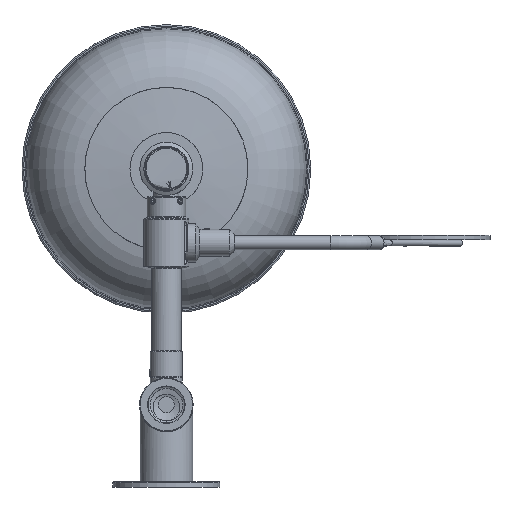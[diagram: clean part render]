
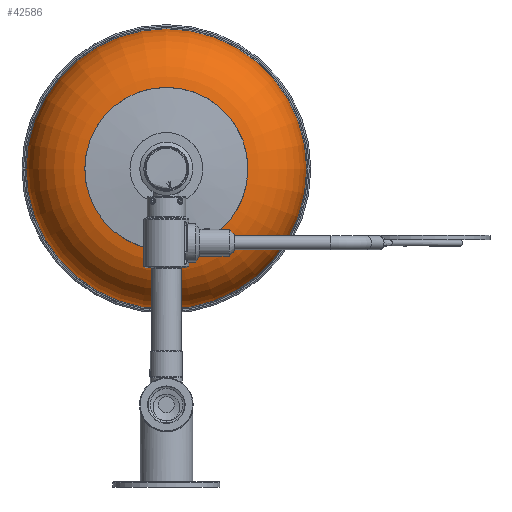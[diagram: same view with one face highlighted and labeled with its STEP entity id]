
A CAD part, top view. The second image highlights one B-rep face of the part: STEP entity #42586.
In plain terms, the highlighted toroidal (fillet/blend) face has major radius 70.102 mm and minor radius 60.8 mm.
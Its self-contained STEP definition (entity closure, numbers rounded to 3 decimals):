
#1020 = DIRECTION ( 'NONE',  ( 0., 0., 1. ) ) ;
#6972 = CARTESIAN_POINT ( 'NONE',  ( 0., 0., -95.3 ) ) ;
#9232 = FACE_OUTER_BOUND ( 'NONE', #31216, .T. ) ;
#10496 = CARTESIAN_POINT ( 'NONE',  ( -76.131, 0., -40.099 ) ) ;
#11680 = AXIS2_PLACEMENT_3D ( 'NONE', #39501, #25369, #44631 ) ;
#12055 = DIRECTION ( 'NONE',  ( -1., 0., 0. ) ) ;
#13735 = FACE_OUTER_BOUND ( 'NONE', #36301, .T. ) ;
#16264 = DIRECTION ( 'NONE',  ( 0., 0., -1. ) ) ;
#20292 = CIRCLE ( 'NONE', #39543, 76.131 ) ;
#21012 = VERTEX_POINT ( 'NONE', #39375 ) ;
#21316 = CIRCLE ( 'NONE', #53057, 130.671 ) ;
#25369 = DIRECTION ( 'NONE',  ( 0., 0., -1. ) ) ;
#26623 = ORIENTED_EDGE ( 'NONE', *, *, #45159, .T. ) ;
#31216 = EDGE_LOOP ( 'NONE', ( #26623 ) ) ;
#36301 = EDGE_LOOP ( 'NONE', ( #43834 ) ) ;
#37324 = EDGE_CURVE ( 'NONE', #39079, #39079, #20292, .T. ) ;
#39079 = VERTEX_POINT ( 'NONE', #10496 ) ;
#39375 = CARTESIAN_POINT ( 'NONE',  ( -130.671, 0., -95.3 ) ) ;
#39501 = CARTESIAN_POINT ( 'NONE',  ( 0., 0., -100.599 ) ) ;
#39543 = AXIS2_PLACEMENT_3D ( 'NONE', #45174, #16264, #12055 ) ;
#42586 = ADVANCED_FACE ( 'NONE', ( #13735, #9232 ), #53973, .T. ) ;
#43116 = DIRECTION ( 'NONE',  ( -1., 0., 0. ) ) ;
#43834 = ORIENTED_EDGE ( 'NONE', *, *, #37324, .T. ) ;
#44631 = DIRECTION ( 'NONE',  ( -1., 0., 0. ) ) ;
#45159 = EDGE_CURVE ( 'NONE', #21012, #21012, #21316, .T. ) ;
#45174 = CARTESIAN_POINT ( 'NONE',  ( 0., 0., -40.099 ) ) ;
#53057 = AXIS2_PLACEMENT_3D ( 'NONE', #6972, #1020, #43116 ) ;
#53973 = TOROIDAL_SURFACE ( 'NONE', #11680, 70.102, 60.8 ) ;
